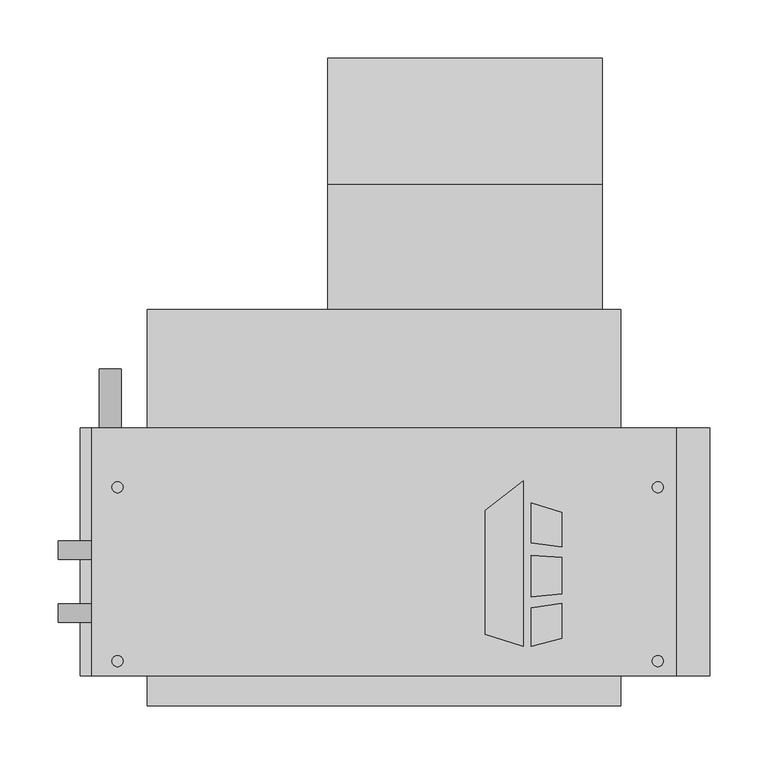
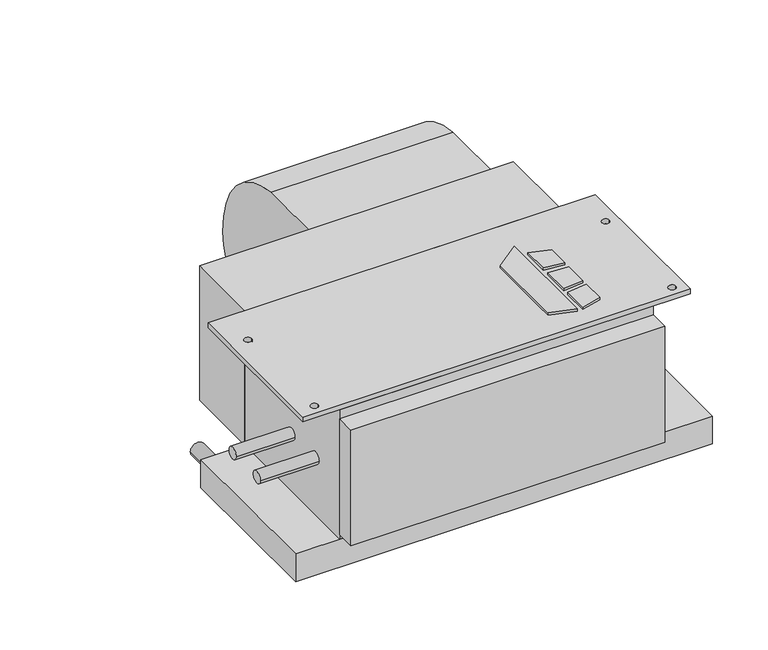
"""IFC4 building model written with IfcOpenShell, lengths in millimetres: proxy geometry, Concealed_Horizontal_Fan_Coil_Unit_-_CHY_-_IEC_-_2-Pipe_Cool-EHeat_LH_2022 : Size 02 - 277v/60Hz/1Ph - 4 Row 2.0kW."""

from ifc_helpers import new_model, si_unit, point, frame, frame_2d, origin, origin_with_axes, place, context, project, spatial, polyline, circle_curve, trimmed, segment, composite_curve, outline, extrude, source, transform, mapped, element, save


def mechanical_equipment_23417bb2(model_context):
    return source(origin(), model_context, "Body", "SweptSolid", [
        extrude(outline(polyline([(239.4019761, -202.5703476), (271.9602728, -177.1330184), (271.9602728, -319.0875), (239.4019761, -308.8679201), (239.4019761, -202.5703476)])), origin_with_axes(), (0.0, 0.0, 1.0), 3.175),
        extrude(outline(polyline([(278.7186058, -230.442352), (278.7186058, -195.9624379), (304.8, -204.1490115), (304.8, -233.6447446), (278.7186058, -230.442352)])), origin_with_axes(), (0.0, 0.0, 1.0), 3.175),
        extrude(outline(polyline([(304.8, -312.0990115), (278.7186058, -319.0875), (278.7186058, -285.8661996), (304.8, -282.3243564), (304.8, -312.0990115)])), origin_with_axes(), (0.0, 0.0, 1.0), 3.175),
        extrude(outline(polyline([(304.8, -242.7263277), (304.8, -273.976483), (278.7186058, -276.717748), (278.7186058, -240.8600378), (304.8, -242.7263277)])), origin_with_axes(), (0.0, 0.0, 1.0), 3.175),
        extrude(outline(composite_curve([segment(trimmed(circle_curve(frame_2d((68.401169, -136.0299844)), 117.3559541), [point((77.7875, -19.05))], [point((185.7375, -138.176))], False, "CARTESIAN"), True, "CONTINUOUS"), segment(trimmed(circle_curve(frame_2d((90.0022663, -136.4250563)), 95.7512443), [point((185.7375, -138.176))], [point((77.7875, -231.394))], False, "CARTESIAN"), True, "CONTINUOUS"), segment(trimmed(circle_curve(frame_2d((89.9711869, -136.6666968)), 95.5076133), [point((77.7875, -231.394))], [point((-5.5245, -138.176))], False, "CARTESIAN"), True, "CONTINUOUS"), segment(trimmed(circle_curve(frame_2d((-24.6059828, -138.4775816)), 19.0838659), [point((-5.5245, -138.176))], [point((-17.7963373, -120.65))], True, "CARTESIAN"), True, "CONTINUOUS"), segment(polyline([(-17.7963373, -120.65), (-30.1625, -120.65), (-30.1625, -19.05), (77.7875, -19.05)]), True, "CONTINUOUS")], self_intersect=False)), frame((104.013, 0.0, 0.0), z_axis=(1.0, 0.0, 0.0), x_axis=(0.0, 1.0, 0.0)), (0.0, 0.0, 1.0), 235.712),
        extrude(outline(polyline([(403.225, -131.7625), (403.225, -344.4875), (-98.425, -344.4875), (-98.425, -131.7625), (403.225, -131.7625)]), holes=[composite_curve([segment(trimmed(circle_curve(frame_2d((-76.2, -182.5625)), 4.7625), [point((-80.9625, -182.5625))], [point((-71.4375, -182.5625))], True, "CARTESIAN"), True, "CONTINUOUS"), segment(trimmed(circle_curve(frame_2d((-76.2, -182.5625)), 4.7625), [point((-71.4375, -182.5625))], [point((-80.9625, -182.5625))], True, "CARTESIAN"), True, "CONTINUOUS")], self_intersect=False), composite_curve([segment(trimmed(circle_curve(frame_2d((-76.2, -331.7875)), 4.7625), [point((-80.9625, -331.7875))], [point((-71.4375, -331.7875))], True, "CARTESIAN"), True, "CONTINUOUS"), segment(trimmed(circle_curve(frame_2d((-76.2, -331.7875)), 4.7625), [point((-71.4375, -331.7875))], [point((-80.9625, -331.7875))], True, "CARTESIAN"), True, "CONTINUOUS")], self_intersect=False), composite_curve([segment(trimmed(circle_curve(frame_2d((387.35, -182.5625)), 4.7625), [point((382.5875, -182.5625))], [point((392.1125, -182.5625))], True, "CARTESIAN"), True, "CONTINUOUS"), segment(trimmed(circle_curve(frame_2d((387.35, -182.5625)), 4.7625), [point((392.1125, -182.5625))], [point((382.5875, -182.5625))], True, "CARTESIAN"), True, "CONTINUOUS")], self_intersect=False), composite_curve([segment(trimmed(circle_curve(frame_2d((387.35, -331.7875)), 4.7625), [point((382.5875, -331.7875))], [point((392.1125, -331.7875))], True, "CARTESIAN"), True, "CONTINUOUS"), segment(trimmed(circle_curve(frame_2d((387.35, -331.7875)), 4.7625), [point((392.1125, -331.7875))], [point((382.5875, -331.7875))], True, "CARTESIAN"), True, "CONTINUOUS")], self_intersect=False)]), frame((0.0, 0.0, -6.35), z_axis=(0.0, 0.0, 1.0), x_axis=(1.0, 0.0, 0.0)), (0.0, 0.0, 1.0), 6.35),
        extrude(outline(polyline([(-50.8, -30.1625), (355.6, -30.1625), (355.6, -131.7625), (-50.8, -131.7625), (-50.8, -30.1625)])), frame((0.0, 0.0, -184.15), z_axis=(0.0, 0.0, 1.0), x_axis=(1.0, 0.0, 0.0)), (0.0, 0.0, 1.0), 184.15),
        extrude(outline(composite_curve([segment(trimmed(circle_curve(frame_2d((-209.55, -82.55)), 9.525), [point((-209.55, -92.075))], [point((-209.55, -73.025))], False, "CARTESIAN"), True, "CONTINUOUS"), segment(trimmed(circle_curve(frame_2d((-209.55, -82.55)), 9.525), [point((-209.55, -73.025))], [point((-209.55, -92.075))], False, "CARTESIAN"), True, "CONTINUOUS")], self_intersect=False)), frame((0.0, -131.7625, 0.0), z_axis=(0.0, 1.0, 0.0), x_axis=(0.0, 0.0, 1.0)), (0.0, 0.0, 1.0), 50.8),
        extrude(outline(polyline([(355.6, -369.8875), (-50.8, -369.8875), (-50.8, -344.4875), (355.6, -344.4875), (355.6, -369.8875)])), frame((0.0, 0.0, -177.8), z_axis=(0.0, 0.0, 1.0), x_axis=(1.0, 0.0, 0.0)), (0.0, 0.0, 1.0), 158.75),
        extrude(outline(polyline([(431.8, -131.7625), (431.8, -344.4875), (-107.95, -344.4875), (-107.95, -131.7625), (431.8, -131.7625)])), frame((0.0, 0.0, -222.25), z_axis=(0.0, 0.0, 1.0), x_axis=(1.0, 0.0, 0.0)), (0.0, 0.0, 1.0), 38.1),
        extrude(outline(composite_curve([segment(trimmed(circle_curve(frame_2d((-290.5125, -104.775)), 7.9375), [point((-282.575, -104.775))], [point((-298.45, -104.775))], False, "CARTESIAN"), True, "CONTINUOUS"), segment(trimmed(circle_curve(frame_2d((-290.5125, -104.775)), 7.9375), [point((-298.45, -104.775))], [point((-282.575, -104.775))], False, "CARTESIAN"), True, "CONTINUOUS")], self_intersect=False)), frame((-127.0, 0.0, 0.0), z_axis=(1.0, 0.0, 0.0), x_axis=(0.0, 1.0, 0.0)), (0.0, 0.0, 1.0), 76.2),
        extrude(outline(composite_curve([segment(trimmed(circle_curve(frame_2d((-236.5375, -104.775)), 7.9375), [point((-228.6, -104.775))], [point((-244.475, -104.775))], False, "CARTESIAN"), True, "CONTINUOUS"), segment(trimmed(circle_curve(frame_2d((-236.5375, -104.775)), 7.9375), [point((-244.475, -104.775))], [point((-228.6, -104.775))], False, "CARTESIAN"), True, "CONTINUOUS")], self_intersect=False)), frame((-127.0, 0.0, 0.0), z_axis=(1.0, 0.0, 0.0), x_axis=(0.0, 1.0, 0.0)), (0.0, 0.0, 1.0), 76.2),
        extrude(outline(polyline([(355.6, -344.4875), (-50.8, -344.4875), (-50.8, -131.7625), (355.6, -131.7625), (355.6, -344.4875)])), frame((0.0, 0.0, -184.15), z_axis=(0.0, 0.0, 1.0), x_axis=(1.0, 0.0, 0.0)), (0.0, 0.0, 1.0), 177.8),
    ])


if __name__ == "__main__":
    model = new_model("IFC4")
    model_context = context("Model", 3, world=origin())
    ifc_project = project(units=[si_unit("LENGTHUNIT", "METRE", prefix="MILLI")], contexts=[model_context])
    site = spatial("IfcSite", under=ifc_project)
    building = spatial("IfcBuilding", under=site)
    placement = place(None, origin())
    mechanical_equipment_shape = mechanical_equipment_23417bb2(model_context)
    element("IfcBuildingElementProxy", 1, Name="Concealed_Horizontal_Fan_Coil_Unit_-_CHY_-_IEC_-_2-Pipe_Cool-EHeat_LH_2022 : Size 02 - 277v/60Hz/1Ph - 4 Row 2.0kW", ObjectType="Concealed_Horizontal_Fan_Coil_Unit_-_CHY_-_IEC_-_2-Pipe_Cool-EHeat_LH_2022 : Size 02 - 277v/60Hz/1Ph - 4 Row 2.0kW", at=placement, inside=building, context=model_context, shape_type="MappedRepresentation", body=[
        mapped(mechanical_equipment_shape, transform((0.0, 0.0, 0.0), x_axis=(1.0, 0.0, 0.0), y_axis=(0.0, 1.0, 0.0), z_axis=(0.0, 0.0, 1.0))),
    ])
    save(model, "model.ifc")
